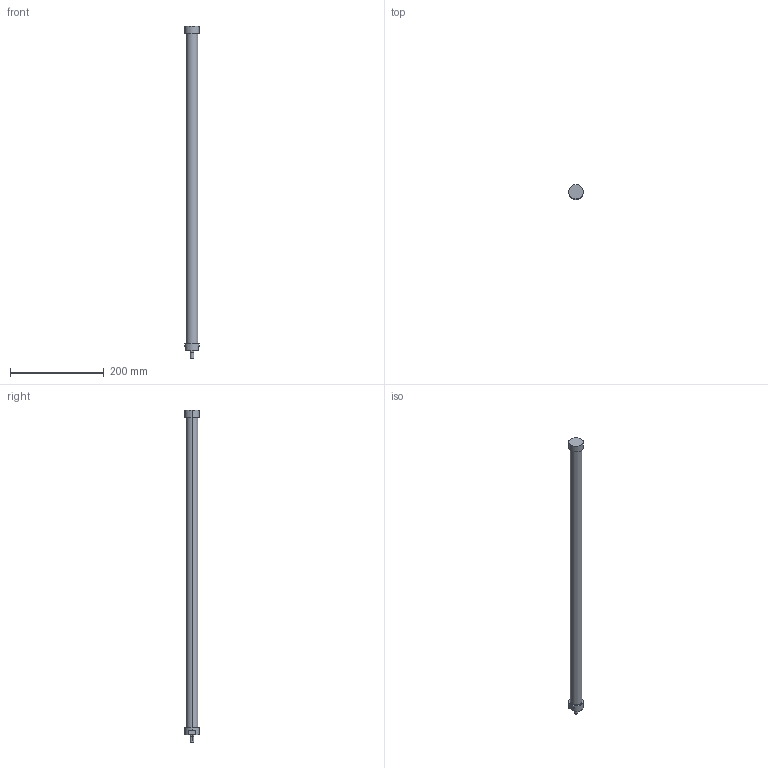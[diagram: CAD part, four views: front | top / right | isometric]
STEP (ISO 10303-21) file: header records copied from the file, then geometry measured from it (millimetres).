
FILE_DESCRIPTION(('STEP AP214'),'1');
FILE_NAME('ETT-R050M704.stp','2015-02-02T15:20:09',(' '),(' '),'Spatial InterOp 3D',' ',' ');
FILE_SCHEMA(('automotive_design'));
Length unit declared in the file: metre
Products named in the file (2): 1; 2
Bounding box: 31 x 31 x 709 mm (x, y, z)
Volume: 348764.8 mm3; surface area: 57743.6 mm2
Topology: 1 solids, 4 shells, 20 faces, 48 edges, 36 vertices
Faces by surface type: cylinder 10, plane 10
Entity records: 812 total; most frequent: DIRECTION 120, CARTESIAN_POINT 106, ORIENTED_EDGE 84, AXIS2_PLACEMENT_3D 50, EDGE_CURVE 48, VERTEX_POINT 36, CIRCLE 28, EDGE_LOOP 24
